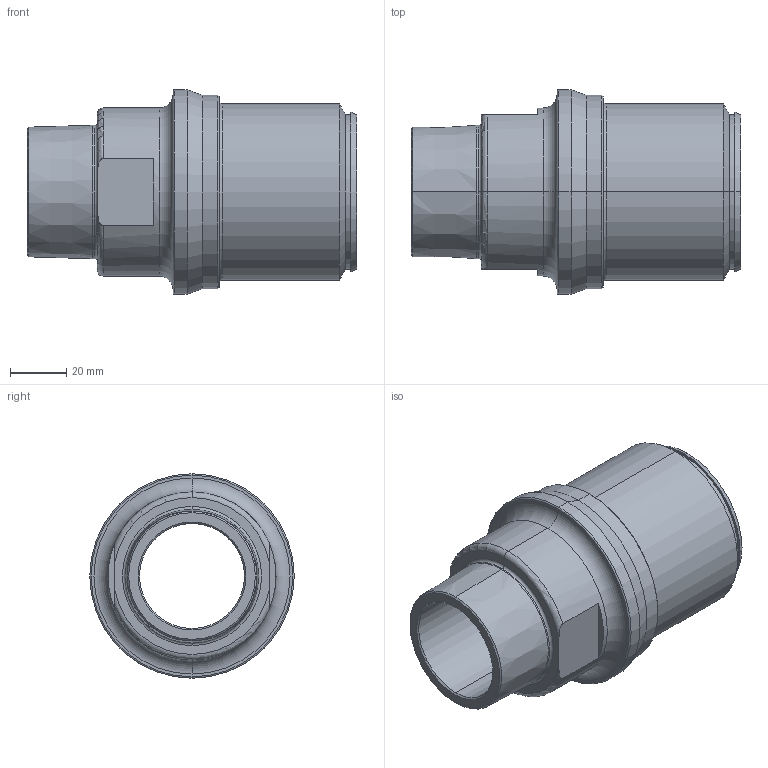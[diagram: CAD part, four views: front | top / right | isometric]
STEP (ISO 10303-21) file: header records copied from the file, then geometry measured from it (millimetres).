
FILE_DESCRIPTION (( 'STEP AP203' ), '1' );
FILE_NAME ('KP_C15-63-54M.step', '2011-08-08T12:04:08', ( '' ), ( '' ), 'SwSTEP 2.0', 'SolidWorks 2011', '' );
FILE_SCHEMA (( 'CONFIG_CONTROL_DESIGN' ));
Length unit declared in the file: millimetre
Products named in the file (1): KP_C15-63-54M
Bounding box: 117.5 x 73 x 73 mm (x, y, z)
Volume: 142079.5 mm3; surface area: 43214.3 mm2
Topology: 1 solids, 2 shells, 62 faces, 130 edges, 75 vertices
Faces by surface type: cone 20, cylinder 18, torus 13, plane 11
Entity records: 1793 total; most frequent: DIRECTION 332, CARTESIAN_POINT 332, ORIENTED_EDGE 260, AXIS2_PLACEMENT_3D 143, EDGE_CURVE 130, CIRCLE 80, VERTEX_POINT 75, EDGE_LOOP 69
